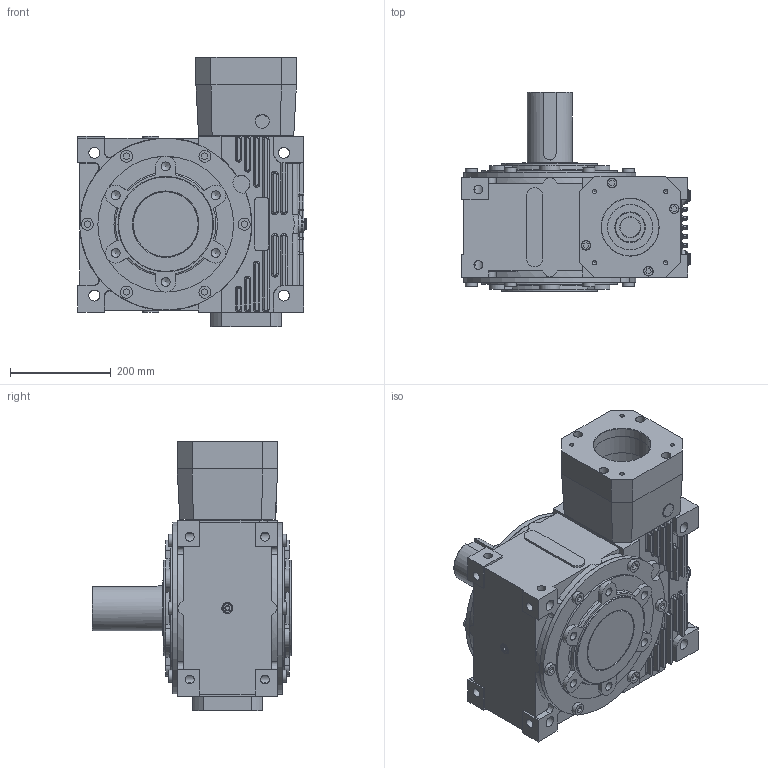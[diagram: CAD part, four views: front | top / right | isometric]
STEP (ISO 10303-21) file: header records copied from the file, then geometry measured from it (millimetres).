
FILE_DESCRIPTION( ( 'STEP AP203' ), '1' );
FILE_NAME( ' ', ' ', ( ' ' ), ( ' ' ), 'XStep 1.0', ' ', ' ' );
FILE_SCHEMA( ( 'CONFIG_CONTROL_DESIGN' ) );
Length unit declared in the file: millimetre
Products named in the file (44): 1; 2; 3; 4; 5; 6; 7; 8; 9; 10; 11; 12; 13; 14; 15; 16; 17; 18; 19; 20; 21; 22; 23; 24; 25; 26; 27; 28; 29; 30; 31; 32; 33; 34; 35; 36; 37; 38; 39; 40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
Bounding box: 454.5 x 397 x 536 mm (x, y, z)
Volume: 21617739.9 mm3; surface area: 2592073.5 mm2
Topology: 44 solids, 44 shells, 1816 faces, 4458 edges, 2820 vertices
Faces by surface type: plane 719, cylinder 538, cone 290, torus 159, bspline 98, sphere 12
Full cylindrical faces by diameter (mm): 8.5 x8, 10.25 x36, 12 x24, 13 x12, 14 x23, 16 x24, 16.66 x3, 17.5 x53, 18 x24, 19 x4, 20 x6, 21 x2, 22 x8, 24 x14, 25 x1, 25.5 x1, 28 x1, 30 x6, 32 x2, 42 x1, 43 x2, 45 x1, 55 x1, 57 x1, 60 x2, 68 x1, 72 x1, 75 x1, 90 x3, 95 x1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
Entity records: 61547 total; most frequent: CARTESIAN_POINT 19483, DIRECTION 8609, ORIENTED_EDGE 7530, EDGE_CURVE 3765, AXIS2_PLACEMENT_3D 3488, VERTEX_POINT 2634, EDGE_LOOP 2546, FACE_OUTER_BOUND 2159
